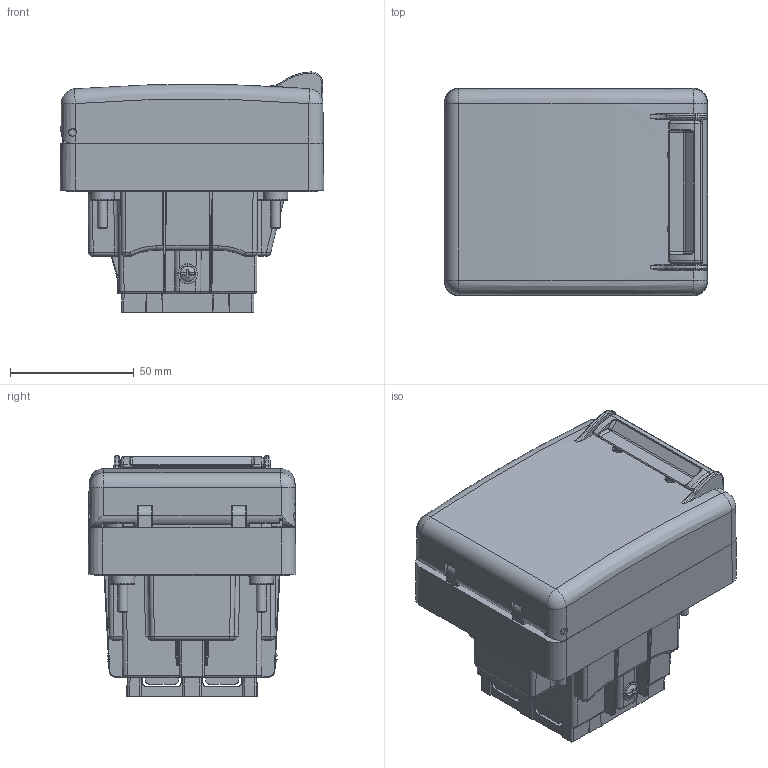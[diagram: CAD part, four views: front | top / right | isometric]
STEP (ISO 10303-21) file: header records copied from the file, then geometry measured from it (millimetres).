
FILE_DESCRIPTION(/* description */ (''),/* implementation_level */ '2;1');
FILE_NAME(/* name */ '4008244.stp',/* time_stamp */ '2020-01-17T08:08:43+01:00',/* author */ (''),/* organization */ (''),/* preprocessor_version */ 'ST-DEVELOPER v16.7',/* originating_system */ 'SIEMENS PLM Software NX 1892',/* authorisation */ '');
FILE_SCHEMA (('AUTOMOTIVE_DESIGN { 1 0 10303 214 3 1 1 1 }'));
Products named in the file (1): BSOM241054988pq9
Bounding box: 106.5 x 84 x 97.07 mm (x, y, z)
Volume: 135783.5 mm3; surface area: 147906.7 mm2
Topology: 19 solids, 19 shells, 3014 faces, 8043 edges, 4968 vertices
Faces by surface type: plane 1360, cylinder 805, bspline 514, cone 176, sphere 85, torus 68, extrusion 6
Full cylindrical faces by diameter (mm): 0.2 x1, 0.4 x1, 2.8 x6, 3 x4, 3.1 x10, 4 x4, 4.4 x4, 6.1 x2, 7.6 x4, 8 x2
Entity records: 128557 total; most frequent: CARTESIAN_POINT 57626, ORIENTED_EDGE 15486, DIRECTION 13636, EDGE_CURVE 7743, VERTEX_POINT 4909, AXIS2_PLACEMENT_3D 4686, VECTOR 4264, LINE 4258
